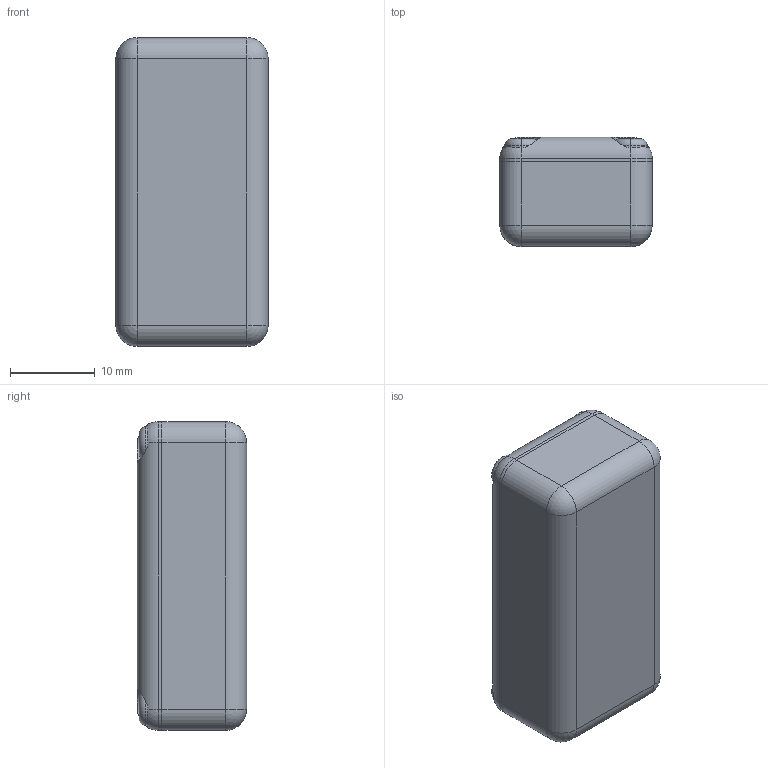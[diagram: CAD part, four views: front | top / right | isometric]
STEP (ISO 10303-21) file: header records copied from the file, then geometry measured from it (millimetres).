
FILE_DESCRIPTION (( 'STEP AP214' ), '1' );
FILE_NAME ('BMC-203L-10.STEP', '2021-03-25T01:31:27', ( '' ), ( '' ), 'SwSTEP 2.0', 'SolidWorks 2016', '' );
FILE_SCHEMA (( 'AUTOMOTIVE_DESIGN' ));
Length unit declared in the file: millimetre
Products named in the file (4): bmc-203L Top; BMC-203L-10; BMC Screw; bmc-203L Bottom
Assembly tree (6 placements, depth 2):
  BMC-203L-10
    bmc-203L Bottom
    bmc-203L Top
    BMC Screw  x4
Bounding box: 18 x 12.9 x 36.5 mm (x, y, z)
Volume: 3771.7 mm3; surface area: 5478.1 mm2
Topology: 6 solids, 6 shells, 748 faces, 1975 edges, 1304 vertices
Faces by surface type: plane 400, bspline 236, cylinder 80, cone 16, sphere 8, torus 8
Entity records: 31887 total; most frequent: CARTESIAN_POINT 17417, ORIENTED_EDGE 3378, DIRECTION 2159, EDGE_CURVE 1689, VERTEX_POINT 1118, VECTOR 1031, LINE 1031, EDGE_LOOP 705
